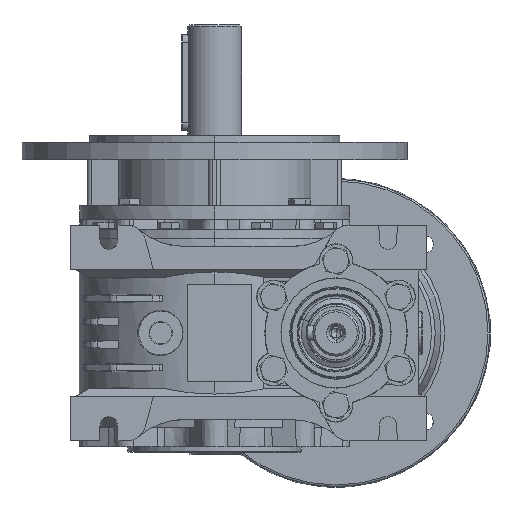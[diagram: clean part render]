
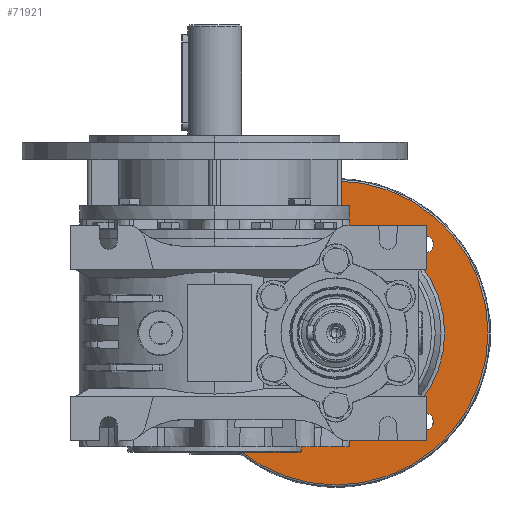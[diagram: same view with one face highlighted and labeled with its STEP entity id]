
A CAD part, left-side view. The second image highlights one B-rep face of the part: STEP entity #71921.
In plain terms, the highlighted planar face has unit normal (-1, 0, 0).
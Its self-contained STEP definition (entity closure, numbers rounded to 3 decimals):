
#791 = PLANE ( 'NONE',  #53141 ) ;
#1155 = AXIS2_PLACEMENT_3D ( 'NONE', #83393, #35830, #45915 ) ;
#1199 = CIRCLE ( 'NONE', #67648, 78.9 ) ;
#1265 = ORIENTED_EDGE ( 'NONE', *, *, #34514, .F. ) ;
#1522 = DIRECTION ( 'NONE',  ( 0., 0., -1. ) ) ;
#1672 = AXIS2_PLACEMENT_3D ( 'NONE', #25099, #89287, #107684 ) ;
#3224 = CIRCLE ( 'NONE', #71610, 4.5 ) ;
#4220 = DIRECTION ( 'NONE',  ( 0., 0., -1. ) ) ;
#5511 = ORIENTED_EDGE ( 'NONE', *, *, #67229, .F. ) ;
#5684 = EDGE_LOOP ( 'NONE', ( #105982, #5511 ) ) ;
#6806 = ORIENTED_EDGE ( 'NONE', *, *, #45182, .T. ) ;
#7121 = CARTESIAN_POINT ( 'NONE',  ( 92., -63., 56.4 ) ) ;
#7395 = ORIENTED_EDGE ( 'NONE', *, *, #17190, .F. ) ;
#9704 = CARTESIAN_POINT ( 'NONE',  ( 92., -21.538, 45.962 ) ) ;
#11489 = CARTESIAN_POINT ( 'NONE',  ( 92., -63., 0. ) ) ;
#15925 = CARTESIAN_POINT ( 'NONE',  ( 92., -108.962, -45.962 ) ) ;
#17190 = EDGE_CURVE ( 'NONE', #114165, #58410, #99072, .T. ) ;
#19392 = CARTESIAN_POINT ( 'NONE',  ( 92., -63., -56.4 ) ) ;
#23331 = CARTESIAN_POINT ( 'NONE',  ( 92., -113.462, -45.962 ) ) ;
#25099 = CARTESIAN_POINT ( 'NONE',  ( 92., -108.962, 45.962 ) ) ;
#25107 = ORIENTED_EDGE ( 'NONE', *, *, #36250, .F. ) ;
#26341 = FACE_BOUND ( 'NONE', #5684, .T. ) ;
#26912 = FACE_BOUND ( 'NONE', #39529, .T. ) ;
#27276 = CARTESIAN_POINT ( 'NONE',  ( 92., -63., -78.9 ) ) ;
#28386 = DIRECTION ( 'NONE',  ( 0., 0., -1. ) ) ;
#28828 = DIRECTION ( 'NONE',  ( -1., 0., 0. ) ) ;
#30726 = CARTESIAN_POINT ( 'NONE',  ( 92., -17.038, -45.962 ) ) ;
#31320 = CARTESIAN_POINT ( 'NONE',  ( 92., -108.962, 41.462 ) ) ;
#31644 = EDGE_LOOP ( 'NONE', ( #32090, #67584 ) ) ;
#32036 = EDGE_CURVE ( 'NONE', #80388, #93776, #82460, .T. ) ;
#32090 = ORIENTED_EDGE ( 'NONE', *, *, #67714, .F. ) ;
#34514 = EDGE_CURVE ( 'NONE', #54847, #80345, #42651, .T. ) ;
#35020 = AXIS2_PLACEMENT_3D ( 'NONE', #105501, #87707, #86542 ) ;
#35305 = CIRCLE ( 'NONE', #1155, 4.5 ) ;
#35830 = DIRECTION ( 'NONE',  ( -1., 0., 0. ) ) ;
#36250 = EDGE_CURVE ( 'NONE', #80345, #54847, #58165, .T. ) ;
#37258 = AXIS2_PLACEMENT_3D ( 'NONE', #37772, #65719, #112041 ) ;
#37772 = CARTESIAN_POINT ( 'NONE',  ( 92., -17.038, 45.962 ) ) ;
#39529 = EDGE_LOOP ( 'NONE', ( #117479, #7395 ) ) ;
#41457 = DIRECTION ( 'NONE',  ( -1., 0., 0. ) ) ;
#42651 = CIRCLE ( 'NONE', #105235, 4.5 ) ;
#45182 = EDGE_CURVE ( 'NONE', #114674, #81746, #107086, .T. ) ;
#45343 = FACE_BOUND ( 'NONE', #67830, .T. ) ;
#45915 = DIRECTION ( 'NONE',  ( 0., 0., -1. ) ) ;
#46278 = CARTESIAN_POINT ( 'NONE',  ( 92., -17.038, -50.462 ) ) ;
#46802 = DIRECTION ( 'NONE',  ( -1., 0., 0. ) ) ;
#47712 = DIRECTION ( 'NONE',  ( -1., 0., 0. ) ) ;
#47839 = AXIS2_PLACEMENT_3D ( 'NONE', #64493, #100729, #1522 ) ;
#51701 = DIRECTION ( 'NONE',  ( 0., 0., -1. ) ) ;
#52523 = FACE_BOUND ( 'NONE', #66866, .T. ) ;
#53141 = AXIS2_PLACEMENT_3D ( 'NONE', #62608, #81033, #99408 ) ;
#53687 = FACE_OUTER_BOUND ( 'NONE', #75907, .T. ) ;
#54272 = FACE_BOUND ( 'NONE', #31644, .T. ) ;
#54847 = VERTEX_POINT ( 'NONE', #9704 ) ;
#54919 = ORIENTED_EDGE ( 'NONE', *, *, #68407, .T. ) ;
#55847 = AXIS2_PLACEMENT_3D ( 'NONE', #113527, #86223, #4220 ) ;
#57933 = CARTESIAN_POINT ( 'NONE',  ( 92., -108.962, 50.462 ) ) ;
#58165 = CIRCLE ( 'NONE', #37258, 4.5 ) ;
#58410 = VERTEX_POINT ( 'NONE', #107492 ) ;
#59474 = CARTESIAN_POINT ( 'NONE',  ( 92., -17.038, -41.462 ) ) ;
#60031 = DIRECTION ( 'NONE',  ( -1., 0., 0. ) ) ;
#60948 = EDGE_CURVE ( 'NONE', #112453, #64533, #3224, .T. ) ;
#62608 = CARTESIAN_POINT ( 'NONE',  ( 92., -8., 0. ) ) ;
#63121 = EDGE_CURVE ( 'NONE', #100755, #88694, #81418, .T. ) ;
#63484 = DIRECTION ( 'NONE',  ( 0., 0., -1. ) ) ;
#63920 = EDGE_CURVE ( 'NONE', #58410, #114165, #70220, .T. ) ;
#64487 = CARTESIAN_POINT ( 'NONE',  ( 92., -108.962, 45.962 ) ) ;
#64493 = CARTESIAN_POINT ( 'NONE',  ( 92., -108.962, -45.962 ) ) ;
#64533 = VERTEX_POINT ( 'NONE', #59474 ) ;
#65719 = DIRECTION ( 'NONE',  ( -1., 0., 0. ) ) ;
#66723 = DIRECTION ( 'NONE',  ( 0., 0., -1. ) ) ;
#66866 = EDGE_LOOP ( 'NONE', ( #6806, #54919 ) ) ;
#67229 = EDGE_CURVE ( 'NONE', #88694, #100755, #105463, .T. ) ;
#67584 = ORIENTED_EDGE ( 'NONE', *, *, #60948, .F. ) ;
#67648 = AXIS2_PLACEMENT_3D ( 'NONE', #11489, #47712, #66723 ) ;
#67714 = EDGE_CURVE ( 'NONE', #64533, #112453, #35305, .T. ) ;
#67830 = EDGE_LOOP ( 'NONE', ( #1265, #25107 ) ) ;
#68407 = EDGE_CURVE ( 'NONE', #81746, #114674, #103861, .T. ) ;
#70220 = CIRCLE ( 'NONE', #83482, 4.5 ) ;
#70590 = DIRECTION ( 'NONE',  ( 0., 0., -1. ) ) ;
#70718 = CARTESIAN_POINT ( 'NONE',  ( 92., -17.038, 45.962 ) ) ;
#71274 = DIRECTION ( 'NONE',  ( 1., 0., 0. ) ) ;
#71610 = AXIS2_PLACEMENT_3D ( 'NONE', #30726, #46802, #28386 ) ;
#71921 = ADVANCED_FACE ( 'NONE', ( #52523, #53687, #26341, #26912, #45343, #54272 ), #791, .F. ) ;
#75907 = EDGE_LOOP ( 'NONE', ( #82226, #81187 ) ) ;
#80345 = VERTEX_POINT ( 'NONE', #86168 ) ;
#80388 = VERTEX_POINT ( 'NONE', #111715 ) ;
#81033 = DIRECTION ( 'NONE',  ( 1., 0., 0. ) ) ;
#81187 = ORIENTED_EDGE ( 'NONE', *, *, #32036, .T. ) ;
#81418 = CIRCLE ( 'NONE', #1672, 4.5 ) ;
#81746 = VERTEX_POINT ( 'NONE', #7121 ) ;
#82226 = ORIENTED_EDGE ( 'NONE', *, *, #88871, .T. ) ;
#82460 = CIRCLE ( 'NONE', #35020, 78.9 ) ;
#82663 = AXIS2_PLACEMENT_3D ( 'NONE', #64487, #28828, #100124 ) ;
#83393 = CARTESIAN_POINT ( 'NONE',  ( 92., -17.038, -45.962 ) ) ;
#83482 = AXIS2_PLACEMENT_3D ( 'NONE', #15925, #41457, #70590 ) ;
#86168 = CARTESIAN_POINT ( 'NONE',  ( 92., -12.538, 45.962 ) ) ;
#86223 = DIRECTION ( 'NONE',  ( 1., 0., 0. ) ) ;
#86542 = DIRECTION ( 'NONE',  ( 0., 0., -1. ) ) ;
#87707 = DIRECTION ( 'NONE',  ( -1., 0., 0. ) ) ;
#88694 = VERTEX_POINT ( 'NONE', #57933 ) ;
#88701 = AXIS2_PLACEMENT_3D ( 'NONE', #100295, #71274, #63484 ) ;
#88871 = EDGE_CURVE ( 'NONE', #93776, #80388, #1199, .T. ) ;
#89287 = DIRECTION ( 'NONE',  ( -1., 0., 0. ) ) ;
#93776 = VERTEX_POINT ( 'NONE', #27276 ) ;
#99072 = CIRCLE ( 'NONE', #47839, 4.5 ) ;
#99408 = DIRECTION ( 'NONE',  ( 0., 0., -1. ) ) ;
#100124 = DIRECTION ( 'NONE',  ( 0., 0., -1. ) ) ;
#100295 = CARTESIAN_POINT ( 'NONE',  ( 92., -63., 0. ) ) ;
#100729 = DIRECTION ( 'NONE',  ( -1., 0., 0. ) ) ;
#100755 = VERTEX_POINT ( 'NONE', #31320 ) ;
#103861 = CIRCLE ( 'NONE', #88701, 56.4 ) ;
#105235 = AXIS2_PLACEMENT_3D ( 'NONE', #70718, #60031, #51701 ) ;
#105463 = CIRCLE ( 'NONE', #82663, 4.5 ) ;
#105501 = CARTESIAN_POINT ( 'NONE',  ( 92., -63., 0. ) ) ;
#105982 = ORIENTED_EDGE ( 'NONE', *, *, #63121, .F. ) ;
#107086 = CIRCLE ( 'NONE', #55847, 56.4 ) ;
#107492 = CARTESIAN_POINT ( 'NONE',  ( 92., -104.462, -45.962 ) ) ;
#107684 = DIRECTION ( 'NONE',  ( 0., 0., -1. ) ) ;
#111715 = CARTESIAN_POINT ( 'NONE',  ( 92., -63., 78.9 ) ) ;
#112041 = DIRECTION ( 'NONE',  ( 0., 0., -1. ) ) ;
#112453 = VERTEX_POINT ( 'NONE', #46278 ) ;
#113527 = CARTESIAN_POINT ( 'NONE',  ( 92., -63., 0. ) ) ;
#114165 = VERTEX_POINT ( 'NONE', #23331 ) ;
#114674 = VERTEX_POINT ( 'NONE', #19392 ) ;
#117479 = ORIENTED_EDGE ( 'NONE', *, *, #63920, .F. ) ;
